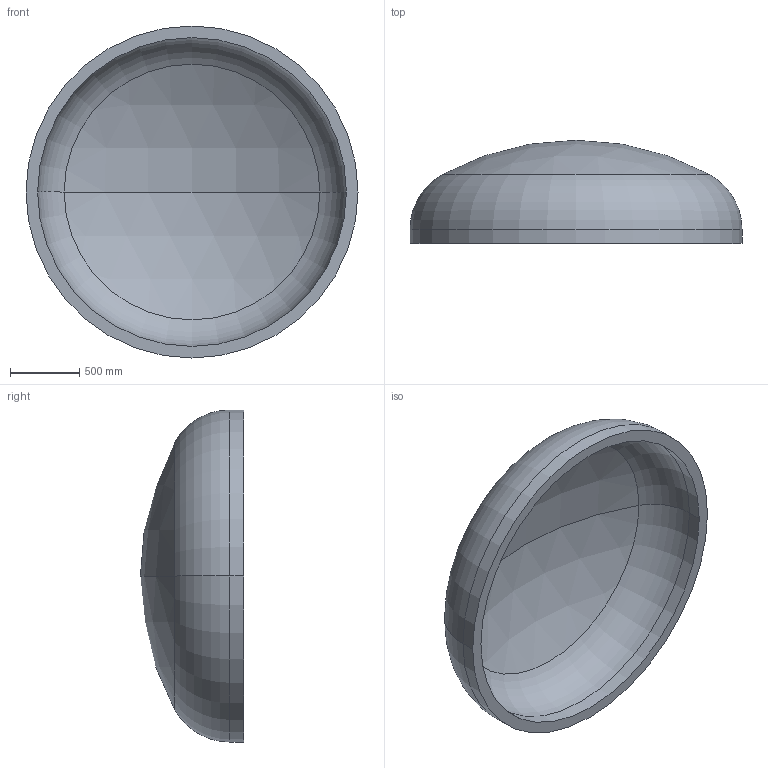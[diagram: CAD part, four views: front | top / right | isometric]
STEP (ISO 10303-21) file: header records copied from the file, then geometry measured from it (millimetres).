
FILE_DESCRIPTION (( 'STEP AP203' ), '1' );
FILE_NAME ('DIN 28013 Korbbogenform_-_Boden DIN 28013 - 2400 x 100 - I - s=84.step', '2016-07-01T15:36:28', ( '' ), ( '' ), 'SwSTEP 2.0', 'SolidWorks 2013', '' );
FILE_SCHEMA (( 'CONFIG_CONTROL_DESIGN' ));
Length unit declared in the file: millimetre
Products named in the file (1): DIN 28013 Korbbogenform_-_Boden DIN 28013 - 2400 x 100 - I - s=84
Bounding box: 2400 x 745.33 x 2400 mm (x, y, z)
Volume: 564103088.9 mm3; surface area: 14056977.8 mm2
Topology: 1 solids, 1 shells, 13 faces, 24 edges, 14 vertices
Faces by surface type: torus 4, cylinder 4, sphere 4, plane 1
Entity records: 407 total; most frequent: DIRECTION 72, CARTESIAN_POINT 52, ORIENTED_EDGE 48, AXIS2_PLACEMENT_3D 34, EDGE_CURVE 24, CIRCLE 20, VERTEX_POINT 14, EDGE_LOOP 14
